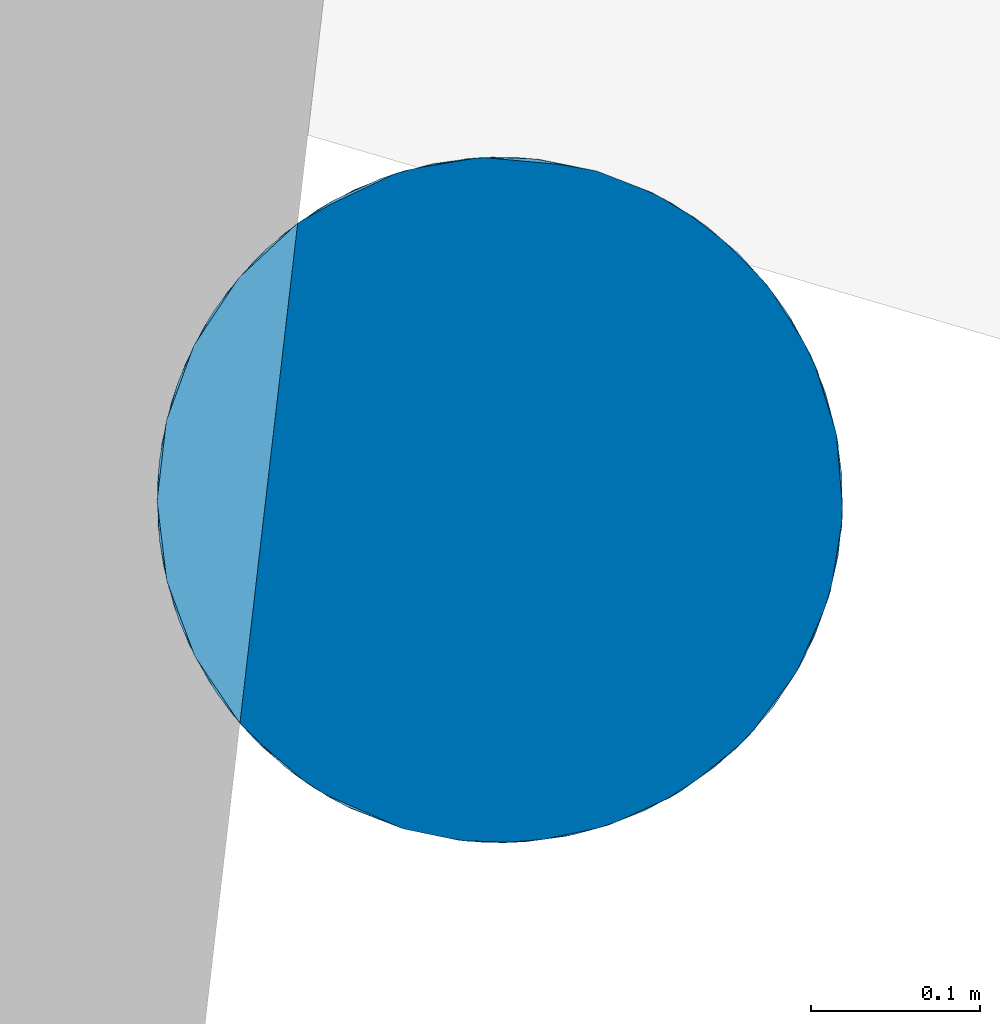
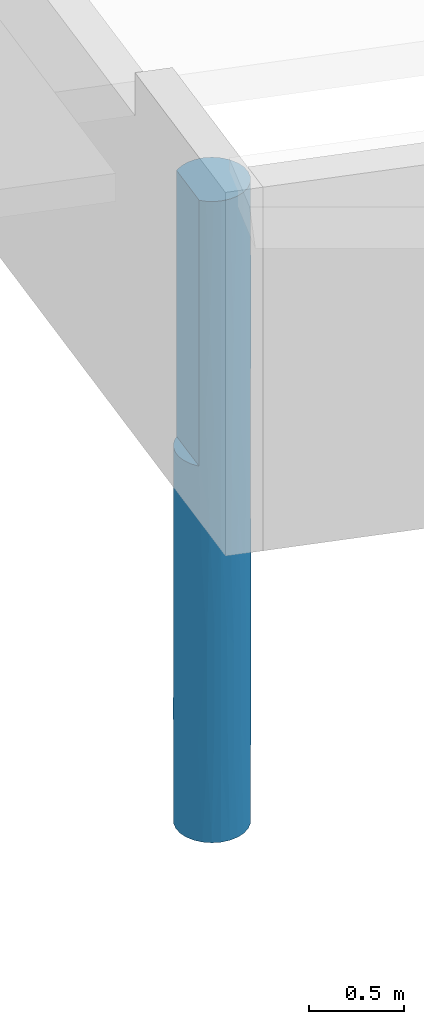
# One storey, part 3 of 4: 1 column.
"""IFC2X3 building model written with IfcOpenShell, lengths in millimetres."""

from ifc_helpers import new_model, entity, si_unit, converted_unit, direction, origin, place, context, subcontext, project, spatial, faceted_brep, source, transform, mapped, material, type_object, type_shapes, element, save


model = new_model("IFC2X3")

# Units and contexts
model_context = context("Model", 3, precision=0.01, world=origin(), true_north=direction((6.123233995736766e-17, 1.0)))
body_context = subcontext(model_context, "Body", "Model", "MODEL_VIEW")
ifc_project = project(units=[si_unit("LENGTHUNIT", "METRE", prefix="MILLI"), si_unit("AREAUNIT", "SQUARE_METRE"), si_unit("VOLUMEUNIT", "CUBIC_METRE"), converted_unit("PLANEANGLEUNIT", "DEGREE", entity("IfcPlaneAngleMeasure", 0.017453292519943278), si_unit("PLANEANGLEUNIT", "RADIAN"), dimensions=[0, 0, 0, 0, 0, 0, 0])], contexts=[model_context])

# Site, building, storey
site_placement = place(None, origin())
site = spatial("IfcSite", under=ifc_project, at=site_placement, Name="SiteName", CompositionType="ELEMENT")
building_placement = place(site_placement, origin())
building = spatial("IfcBuilding", under=site, at=building_placement, Name="Building Name", CompositionType="ELEMENT")
storey_placement = place(building_placement, origin())
storey = spatial("IfcBuildingStorey", under=building, at=storey_placement, Name="NN 2000", CompositionType="ELEMENT", Elevation=3.401508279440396e-10)

# Column
ifc_material = material(Name="Concrete - Cast-in-Place")
column_type = type_object("IfcColumnType", Name="Concrete-Circular-Column:406", PredefinedType="COLUMN", material=ifc_material)
shared_shape = source(origin(), body_context, "Body", "Brep", [
    faceted_brep([(-3034.824449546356, 45210.23204495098, -4130.0), (-3000.7681226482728, 45245.37580527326, -4130.0), (-2959.2909583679, 45271.348139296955, -4130.0), (-2912.803458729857, 45286.63962937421, -4130.0), (-2864.0073082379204, 45290.36158968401, -4130.0), (-2815.7383617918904, 45282.297713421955, -4130.0), (-2770.80183510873, 45262.91664376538, -4130.0), (-2731.809275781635, 45233.3447380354, -4130.0), (-2701.0267896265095, 45195.300607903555, -4130.0), (-2680.243342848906, 45150.9952399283, -4130.0), (-2670.6667938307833, 45103.00350105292, -4130.0), (-2672.8536967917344, 45054.11449669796, -4130.0), (-2686.676956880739, 45007.16947809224, -4130.0), (-2711.333216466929, 44964.896719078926, -4130.0), (-2745.389543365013, 44929.75295875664, -4130.0), (-2786.8667076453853, 44903.780624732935, -4130.0), (-2833.3542072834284, 44888.4891346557, -4130.0), (-2882.150357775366, 44884.767174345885, -4130.0), (-2930.4193042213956, 44892.83105060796, -4130.0), (-2975.355830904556, 44912.21212026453, -4130.0), (-3014.348390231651, 44941.7840259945, -4130.0), (-3045.130876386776, 44979.82815612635, -4130.0), (-3065.9143231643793, 45024.1335241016, -4130.0), (-3075.4908721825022, 45072.12526297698, -4130.0), (-3073.3039692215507, 45121.01426733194, -4130.0), (-3059.4807091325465, 45167.959285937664, -4130.0), (-2995.7464958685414, 44925.818765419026, -2875.7788239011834), (-2961.8739777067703, 44905.01460174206, -2788.631135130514), (-2986.299235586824, 44919.070641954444, -2043.9922774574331), (-3018.8591892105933, 45228.83393905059, -3563.605630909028), (-2907.8951152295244, 45287.55644808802, -30.0), (-2861.5157910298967, 45290.23479440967, -30.0), (-2884.7823233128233, 45290.226732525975, -594.6424703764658), (-3000.9986748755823, 44929.93978350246, -1385.3347888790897), (-3027.042022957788, 44955.26042840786, -1024.98220603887), (-3027.0420229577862, 44955.26042840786, -1730.0), (-3067.812164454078, 45144.90485309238, -3557.26511737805), (-3048.4310948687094, 45189.84137972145, -3461.1621160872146), (-2930.419304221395, 44892.83105060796, -527.5003478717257), (-2930.419304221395, 44892.83105060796, -30.0), (-2966.4841698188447, 44907.32997060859, -30.0), (-2980.815059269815, 45259.61642516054, -3446.882930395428), (-3076.0779920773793, 45086.980073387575, -1730.0), (-3070.6032593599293, 45134.39493821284, -1730.0), (-3074.739012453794, 45110.848969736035, -2470.7970499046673), (-2815.7383617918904, 45282.297713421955, -1024.9826247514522), (-2815.7383617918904, 45282.297713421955, -1522.4739371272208), (-2815.7383617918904, 45282.297713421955, -2019.965249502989), (-2852.0379254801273, 45289.47099461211, -1771.2195725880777), (-2963.5388401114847, 44905.83384766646, -3368.7543461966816), (-2815.7383617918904, 45282.297713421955, -3632.5086876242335), (-2888.517952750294, 45289.976421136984, -3316.342121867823), (-2849.917396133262, 45289.23874290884, -3383.763040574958), (-2815.7383617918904, 45282.297713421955, -2577.491312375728), (-2815.738361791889, 45282.297713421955, -3074.9826143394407), (-2815.7383617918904, 45282.297713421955, -3135.017375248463), (-2943.7112245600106, 45277.88008095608, -1377.491301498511), (-2992.839904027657, 45251.473765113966, -1730.0), (-2992.8399040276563, 45251.473765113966, -1024.9826229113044), (-2815.7383617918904, 45282.297713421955, -30.0), (-3054.208855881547, 45179.22088649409, -1730.0), (-3027.8011074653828, 45218.979821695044, -1730.0), (-3042.1775753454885, 45199.87918664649, -2471.601879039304), (-3041.5282093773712, 44974.27798565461, -2657.9590277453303), (-3053.67821451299, 44994.86668301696, -1730.0), (-3011.2788361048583, 45236.25788941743, -2271.5350005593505), (-2995.7464959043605, 44925.81876544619, -3552.7685442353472), (-2936.5096919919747, 45280.399871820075, -2780.9148419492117), (-2877.2736568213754, 45290.52103613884, -2366.7429917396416), (-3063.7280905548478, 45157.2914255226, -2910.9240796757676), (-3063.7280905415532, 45157.29142555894, -2270.0820936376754), (-2952.4502909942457, 45274.40434470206, -30.0), (-2930.5501693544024, 45282.25913155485, -676.7808399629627), (-2884.7823236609, 45290.22673250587, -1251.5438223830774), (-3072.1540803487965, 45047.839756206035, -3550.208163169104), (-3011.2788361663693, 45236.25788936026, -2913.601929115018), (-3075.8760406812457, 45096.635906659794, -3474.6027238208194), (-3074.601628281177, 45063.119280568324, -2268.9071737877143), (-3074.6016282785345, 45063.119280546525, -2908.7592854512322), (-3030.8902562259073, 44959.87509232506, -3502.69519879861), (-2892.6670800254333, 45289.61709934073, -1825.4918560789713), (-2928.9603530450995, 45282.72138475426, -2065.9591840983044), (-3056.8625902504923, 45001.35225657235, -3367.9564508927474), (-2992.8399040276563, 45251.473765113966, -30.0), (-2930.419304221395, 44892.83105060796, -3632.4996521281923), (-2971.7726884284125, 45264.95807666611, -2340.5418339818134), (-3070.330396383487, 45039.59751068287, -1730.0), (-2936.509691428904, 45280.39987200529, -3513.7032113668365), (-3063.323532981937, 45016.74098100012, -2386.32062892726), (-3016.9420476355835, 44944.342960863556, -2337.838557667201), (-2983.27516661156, 44917.077526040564, -843.0407197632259), (-2999.0581610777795, 44928.38458147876, -30.0), (-3027.042022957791, 44955.26042840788, -30.0), (-2964.795895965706, 44906.46501602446, -1458.023238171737), (-2971.443022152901, 45265.1410873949, -2904.8254726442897), (-2930.419304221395, 44892.83105060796, -1024.9848482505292), (-2930.4193042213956, 44892.83105060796, -3135.021983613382), (-2930.419304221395, 44892.83105060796, -3105.0), (-2930.419304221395, 44892.83105060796, -2592.4920762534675), (-2930.419304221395, 44892.83105060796, -2140.030594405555), (-2930.419304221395, 44892.83105060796, -2080.0), (-2930.419304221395, 44892.83105060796, -1582.5043053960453), (-2930.419304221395, 44892.83105060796, -1552.4845003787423), (-2815.7383617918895, 45282.297713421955, -2547.4739215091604), (-2857.6397139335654, 44885.15234284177, -3556.947637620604), (-2715.267409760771, 45215.25367167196, -651.5624778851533), (-2701.0267896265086, 45195.300607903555, -30.0), (-2689.295075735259, 45173.77650739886, -756.362914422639), (-2670.281625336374, 45078.4928572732, -3135.5168116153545), (-2677.279051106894, 45033.97851253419, -2607.7584056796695), (-2678.3455015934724, 45030.22391082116, -3444.0388843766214), (-2765.342607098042, 44915.51233864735, -3627.754014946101), (-2727.2984769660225, 44946.294824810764, -3403.6370853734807), (-2765.3426070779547, 44915.51233865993, -3013.449565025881), (-2673.132413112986, 45122.6418558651, -2635.0396230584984), (-2685.013353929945, 45163.986732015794, -1999.2217421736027), (-2672.8577511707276, 45121.03852708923, -1811.8996616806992), (-2897.157539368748, 44885.99748021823, -624.5658074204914), (-2786.8667076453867, 44903.780624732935, -30.0), (-2765.34260707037, 44915.512338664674, -897.9504360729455), (-2745.389543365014, 44929.75295875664, -30.0), (-2680.2433428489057, 45150.9952399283, -30.0), (-2674.003585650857, 45127.28900775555, -3444.038884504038), (-2897.830845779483, 44886.07905286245, -2797.8316188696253), (-2895.414049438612, 44885.796847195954, -3383.7630379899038), (-2697.7265712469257, 44985.28738413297, -3627.7540150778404), (-2711.33321646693, 44964.896719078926, -30.0), (-2727.2984769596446, 44946.29482481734, -680.2069100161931), (-2809.647975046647, 44894.72889187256, -680.2069101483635), (-2809.647974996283, 44894.72889188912, -1512.752174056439), (-2809.6479750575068, 44894.72889186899, -3403.6370851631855), (-2670.666793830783, 45103.00350105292, -30.0), (-2672.853696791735, 45054.11449669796, -30.0), (-2670.2816253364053, 45078.492857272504, -651.5624779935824), (-2857.639713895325, 44885.15234284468, -897.9504363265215), (-2870.0727512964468, 44884.586640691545, -1818.930251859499), (-2731.8092757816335, 45233.3447380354, -30.0), (-2833.35420728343, 44888.4891346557, -30.0), (-2722.7309415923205, 44951.16602591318, -2741.818542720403), (-2807.67418500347, 44895.38937838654, -2621.6360552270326), (-2857.6397139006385, 44885.15234284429, -2883.517657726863), (-2695.3048069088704, 44989.55726163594, -2224.994932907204), (-2697.7265712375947, 44985.28738414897, -3013.4495653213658), (-2727.2984769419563, 44946.29482483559, -2080.0000000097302), (-2750.4111700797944, 45249.30999856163, -3552.291701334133), (-2715.2674097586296, 45215.253671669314, -3352.9156121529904), (-2781.854709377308, 45268.91255340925, -650.0403520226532), (-2781.4263854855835, 45268.696457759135, -1216.2897186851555), (-2750.411170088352, 45249.30999856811, -2874.8953580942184), (-2783.8793592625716, 45269.916935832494, -2778.2096532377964), (-2758.5146977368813, 45255.147373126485, -2005.725192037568), (-2689.295075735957, 45173.776507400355, -2874.8953578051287), (-2689.295075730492, 45173.776507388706, -3552.2917011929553), (-2715.2674097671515, 45215.25367167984, -2590.417509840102), (-2735.835831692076, 44937.98711572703, -1380.1034549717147), (-2767.6059341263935, 44914.115635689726, -1892.041664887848), (-2750.4111700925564, 45249.309998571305, -1012.0174575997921), (-2770.8018351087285, 45262.91664376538, -30.0), (-2686.676956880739, 45007.16947809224, -30.0), (-2697.726571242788, 44985.287384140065, -532.2459850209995), (-2678.345501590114, 45030.22391083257, -756.3629144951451), (-2882.150357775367, 44884.76717434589, -30.0), (-2872.9776082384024, 44884.564407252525, -2373.4217072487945), (-2829.8409959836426, 44889.222532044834, -2075.7738866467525), (-2674.003585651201, 45127.289007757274, -532.2459850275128), (-2715.26740977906, 45215.25367169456, -1779.4817921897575), (-2782.694392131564, 45269.33251136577, -3353.7456536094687), (-2711.755980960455, 44964.3412615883, -1548.8362703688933), (-2892.3188038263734, 44885.47820355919, -1210.8211345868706), (-2697.7265712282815, 44985.28738416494, -1146.550434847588), (-2678.225358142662, 45030.63351750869, -1603.9446464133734), (-2670.2816253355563, 45078.49285729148, -2080.0000000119), (-2670.3753793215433, 45076.59579668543, -1365.7812389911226), (-2685.1809869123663, 45164.39796473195, -1324.987116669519), (-2703.873098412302, 45199.717934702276, -1215.5221350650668), (-2670.7753199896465, 45070.76293502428, -2607.758405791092), (-2692.302108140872, 44995.21301090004, -1677.38747320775), (-2674.0035856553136, 45127.28900777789, -1146.5504348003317), (-2773.08141385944, 44910.90222940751, -2456.5328962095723)], [[[0, 1, 2, 3, 4, 5, 6, 7, 8, 9, 10, 11, 12, 13, 14, 15, 16, 17, 18, 19, 20, 21, 22, 23, 24, 25]], [[26, 27, 28]], [[0, 29, 1]], [[30, 31, 32]], [[33, 34, 35]], [[25, 36, 37]], [[38, 39, 40]], [[41, 2, 1]], [[42, 43, 44]], [[41, 1, 29]], [[45, 46, 47, 48]], [[26, 49, 27]], [[25, 37, 0]], [[5, 4, 50]], [[51, 4, 3]], [[52, 53, 54, 55, 50]], [[56, 57, 58]], [[31, 59, 45]], [[60, 61, 62]], [[63, 35, 64]], [[57, 65, 61]], [[66, 49, 26]], [[51, 67, 68]], [[69, 70, 62]], [[71, 30, 72]], [[45, 73, 32]], [[22, 74, 23]], [[70, 43, 60]], [[37, 62, 75]], [[76, 24, 23]], [[72, 58, 71]], [[77, 44, 78]], [[76, 23, 74]], [[20, 79, 21]], [[80, 68, 81]], [[19, 66, 20]], [[82, 22, 21]], [[63, 82, 79]], [[58, 83, 71]], [[79, 82, 21]], [[73, 56, 72]], [[19, 18, 84]], [[85, 56, 81]], [[42, 77, 86]], [[87, 2, 41]], [[64, 88, 63]], [[28, 89, 26]], [[34, 90, 91]], [[3, 87, 51]], [[91, 92, 34]], [[65, 62, 61]], [[90, 40, 91]], [[28, 93, 33]], [[87, 94, 67]], [[90, 38, 40]], [[24, 36, 25]], [[88, 64, 86]], [[65, 85, 75]], [[38, 90, 95]], [[93, 95, 90]], [[70, 44, 43]], [[76, 44, 69]], [[88, 82, 63]], [[74, 82, 78]], [[94, 75, 85]], [[2, 87, 3]], [[81, 67, 85]], [[33, 93, 90]], [[72, 30, 32]], [[58, 72, 56]], [[62, 37, 69]], [[29, 37, 75]], [[77, 88, 86]], [[82, 88, 78]], [[44, 76, 78]], [[36, 76, 69]], [[66, 79, 20]], [[63, 79, 26]], [[94, 87, 41]], [[51, 87, 67]], [[45, 32, 31]], [[72, 32, 73]], [[84, 49, 19]], [[79, 66, 26]], [[82, 74, 22]], [[76, 74, 78]], [[37, 29, 0]], [[41, 29, 75]], [[76, 36, 24]], [[37, 36, 69]], [[85, 65, 57]], [[62, 65, 75]], [[56, 85, 57]], [[85, 67, 94]], [[80, 56, 73]], [[68, 67, 81]], [[62, 70, 60]], [[44, 70, 69]], [[44, 77, 42]], [[88, 77, 78]], [[49, 84, 96, 97]], [[49, 97, 27]], [[19, 49, 66]], [[27, 97, 98, 99, 100]], [[28, 35, 89]], [[27, 100, 28]], [[93, 100, 101, 102, 95]], [[68, 80, 48]], [[100, 93, 28]], [[34, 33, 90]], [[28, 33, 35]], [[52, 4, 51]], [[4, 52, 50]], [[52, 51, 68]], [[68, 53, 52]], [[68, 47, 103, 53]], [[75, 94, 41]], [[56, 80, 81]], [[45, 48, 73]], [[68, 48, 47]], [[73, 48, 80]], [[35, 63, 89]], [[26, 89, 63]], [[17, 16, 104]], [[105, 106, 107]], [[108, 109, 110]], [[111, 15, 14]], [[112, 113, 111]], [[114, 115, 116]], [[112, 14, 13]], [[117, 39, 38, 95]], [[118, 119, 120]], [[121, 107, 106]], [[10, 9, 122]], [[110, 12, 11]], [[123, 96, 124]], [[125, 13, 12]], [[126, 120, 127]], [[128, 129, 119]], [[130, 111, 113]], [[131, 132, 133]], [[134, 135, 129]], [[136, 106, 105]], [[118, 137, 128]], [[134, 128, 137]], [[6, 5, 50]], [[127, 120, 119]], [[10, 122, 108]], [[112, 138, 113]], [[139, 140, 130]], [[11, 10, 108]], [[141, 142, 109]], [[138, 141, 143]], [[144, 145, 7]], [[45, 146, 147]], [[148, 149, 150]], [[151, 152, 145, 153]], [[15, 130, 16]], [[7, 6, 144]], [[143, 154, 155]], [[110, 11, 108]], [[156, 157, 136]], [[158, 159, 160]], [[133, 132, 160]], [[124, 96, 84]], [[137, 161, 134]], [[162, 140, 163]], [[8, 7, 145]], [[114, 108, 122]], [[131, 164, 121]], [[156, 165, 150]], [[151, 115, 114]], [[121, 164, 107]], [[15, 111, 130]], [[144, 166, 148]], [[126, 159, 158]], [[158, 160, 132]], [[152, 9, 8]], [[59, 157, 146]], [[146, 157, 156]], [[119, 155, 154]], [[167, 127, 154]], [[161, 117, 134]], [[135, 168, 101]], [[153, 145, 144, 148]], [[17, 84, 18]], [[125, 112, 13]], [[148, 166, 149]], [[138, 112, 142]], [[139, 130, 113]], [[104, 130, 140]], [[129, 128, 134]], [[169, 170, 160]], [[171, 172, 170]], [[107, 173, 174]], [[174, 156, 105]], [[152, 122, 9]], [[114, 122, 151]], [[109, 175, 171]], [[125, 110, 142]], [[160, 159, 169]], [[109, 171, 170]], [[142, 110, 109]], [[154, 127, 119]], [[159, 127, 169]], [[112, 125, 142]], [[119, 118, 128]], [[141, 176, 167]], [[172, 177, 133]], [[153, 115, 151]], [[175, 114, 171]], [[115, 165, 174]], [[115, 173, 116]], [[168, 134, 117]], [[99, 123, 162]], [[172, 160, 170]], [[164, 133, 177]], [[174, 105, 107]], [[156, 136, 105]], [[178, 143, 155]], [[135, 163, 129]], [[155, 119, 129]], [[167, 176, 169]], [[163, 155, 129]], [[113, 178, 139]], [[145, 152, 8]], [[122, 152, 151]], [[107, 164, 177]], [[50, 166, 6]], [[130, 104, 16]], [[124, 17, 104]], [[166, 50, 55, 54]], [[166, 54, 149]], [[6, 166, 144]], [[149, 54, 53, 103, 47]], [[150, 165, 153]], [[149, 47, 150]], [[147, 47, 46, 45]], [[109, 170, 141]], [[169, 176, 170]], [[140, 123, 124]], [[17, 124, 84]], [[140, 124, 104]], [[162, 123, 140]], [[123, 99, 98, 97, 96]], [[163, 140, 139]], [[99, 162, 135]], [[150, 153, 148]], [[115, 153, 165]], [[107, 177, 173]], [[156, 174, 165]], [[116, 173, 177]], [[115, 174, 173]], [[112, 111, 14]], [[110, 125, 12]], [[127, 159, 126]], [[133, 164, 131]], [[172, 171, 116]], [[160, 172, 133]], [[141, 138, 142]], [[138, 143, 178]], [[147, 146, 156]], [[59, 146, 45]], [[156, 150, 147]], [[47, 147, 150]], [[39, 117, 161]], [[168, 117, 95]], [[135, 101, 100, 99]], [[135, 134, 168]], [[168, 95, 102, 101]], [[109, 108, 175]], [[114, 175, 108]], [[172, 116, 177]], [[114, 116, 171]], [[162, 163, 135]], [[163, 139, 178]], [[178, 113, 138]], [[163, 178, 155]], [[127, 167, 169]], [[141, 170, 176]], [[154, 143, 167]], [[141, 167, 143]], [[158, 132, 131, 121, 106, 136, 157, 59, 31, 30, 71, 83, 92, 91, 40, 39, 161, 137, 118, 120, 126]], [[83, 58, 57, 35, 34, 92]], [[61, 60, 43, 42, 86, 64, 35, 57]]]),
])
type_shapes(column_type, [shared_shape])
column_placement = place(storey_placement, origin())
element("IfcColumn", 1, at=column_placement, inside=storey, type_object=column_type, material=ifc_material, Name="Concrete-Circular-Column:406", ObjectType="Concrete-Circular-Column:406", context=body_context, shape_type="MappedRepresentation", body=[
    mapped(shared_shape, transform((0.0, 0.0, 0.0), scale=1.0)),
])

save(model, "model.ifc")
